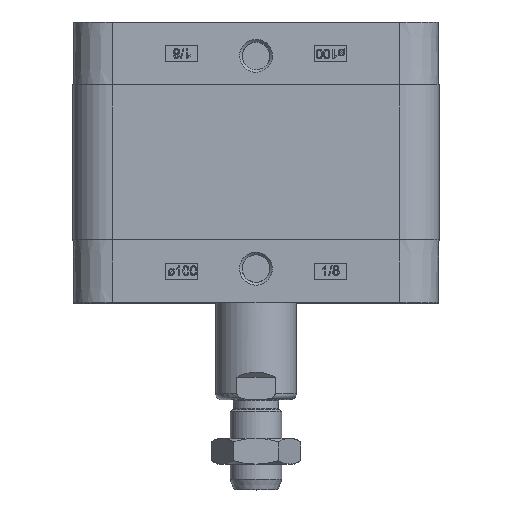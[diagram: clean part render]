
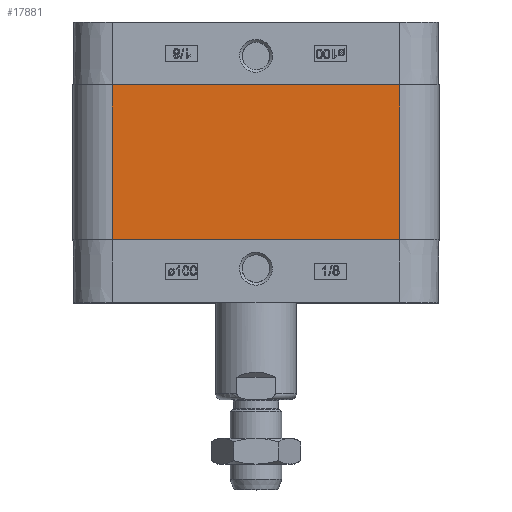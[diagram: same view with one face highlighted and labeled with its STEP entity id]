
A CAD part, top view. The second image highlights one B-rep face of the part: STEP entity #17881.
In plain terms, the highlighted planar face has unit normal (0, 0, 1) as drawn and (1, 0, 0) by its records, which use the part's own axes.
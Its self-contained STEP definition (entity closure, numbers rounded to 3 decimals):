
#958=PLANE('',#18894);
#1758=LINE('',#25975,#2866);
#1762=LINE('',#25992,#2870);
#1763=LINE('',#25994,#2871);
#1764=LINE('',#25996,#2872);
#2866=VECTOR('',#21317,1000.);
#2870=VECTOR('',#21337,1000.);
#2871=VECTOR('',#21340,1000.);
#2872=VECTOR('',#21341,1000.);
#5322=ORIENTED_EDGE('',*,*,#8266,.F.);
#5323=ORIENTED_EDGE('',*,*,#8256,.T.);
#5324=ORIENTED_EDGE('',*,*,#8265,.F.);
#5325=ORIENTED_EDGE('',*,*,#8267,.T.);
#8256=EDGE_CURVE('',#9875,#9874,#1758,.T.);
#8265=EDGE_CURVE('',#9879,#9874,#1762,.T.);
#8266=EDGE_CURVE('',#9875,#9880,#1763,.T.);
#8267=EDGE_CURVE('',#9879,#9880,#1764,.T.);
#9874=VERTEX_POINT('',#25974);
#9875=VERTEX_POINT('',#25976);
#9879=VERTEX_POINT('',#25991);
#9880=VERTEX_POINT('',#25995);
#11430=EDGE_LOOP('',(#5322,#5323,#5324,#5325));
#12376=FACE_BOUND('',#11430,.T.);
#17881=ADVANCED_FACE('',(#12376),#958,.T.);
#18894=AXIS2_PLACEMENT_3D('',#25993,#21338,#21339);
#21317=DIRECTION('',(0.,-1.,0.));
#21337=DIRECTION('',(0.,0.,1.));
#21338=DIRECTION('',(1.,0.,0.));
#21339=DIRECTION('',(0.,0.,-1.));
#21340=DIRECTION('',(0.,0.,-1.));
#21341=DIRECTION('',(0.,1.,0.));
#25974=CARTESIAN_POINT('',(56.75,-44.5,16.5));
#25975=CARTESIAN_POINT('',(56.75,56.75,16.5));
#25976=CARTESIAN_POINT('',(56.75,44.5,16.5));
#25991=CARTESIAN_POINT('',(56.75,-44.5,-31.5));
#25992=CARTESIAN_POINT('',(56.75,-44.5,0.));
#25993=CARTESIAN_POINT('',(56.75,56.75,0.));
#25994=CARTESIAN_POINT('',(56.75,44.5,0.));
#25995=CARTESIAN_POINT('',(56.75,44.5,-31.5));
#25996=CARTESIAN_POINT('',(56.75,56.75,-31.5));
